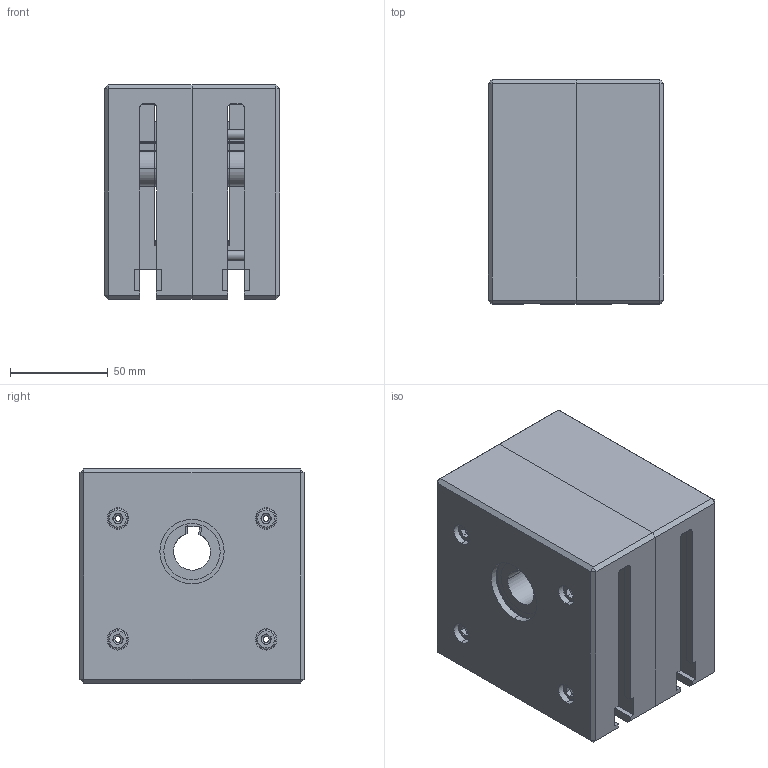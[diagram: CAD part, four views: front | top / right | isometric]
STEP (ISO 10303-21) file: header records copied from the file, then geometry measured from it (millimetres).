
FILE_DESCRIPTION (( 'STEP AP214' ), '1' );
FILE_NAME ('1.8011 Hammashihnan vetopää 90.STEP', '2025-05-02T11:35:31', ( '' ), ( '' ), 'SwSTEP 2.0', 'SolidWorks 2024', '' );
FILE_SCHEMA (( 'AUTOMOTIVE_DESIGN' ));
Length unit declared in the file: millimetre
Products named in the file (1): 1.8011 Hammashihnan vetopää 90
Bounding box: 90 x 115 x 110 mm (x, y, z)
Surface area: 106229.9 mm2 (no closed solid volume)
Topology: 0 solids, 16 shells, 253 faces, 776 edges, 516 vertices
Faces by surface type: plane 166, cylinder 55, cone 20, torus 8, bspline 4
Entity records: 10617 total; most frequent: CARTESIAN_POINT 2438, DIRECTION 1493, ORIENTED_EDGE 1278, EDGE_CURVE 776, LINE 541, VECTOR 541, VERTEX_POINT 516, AXIS2_PLACEMENT_3D 476
